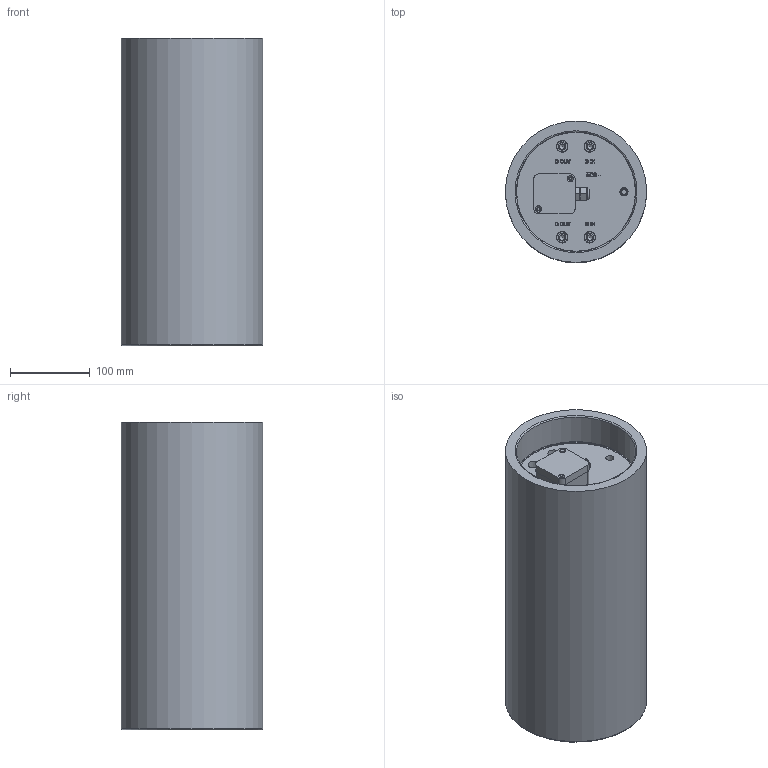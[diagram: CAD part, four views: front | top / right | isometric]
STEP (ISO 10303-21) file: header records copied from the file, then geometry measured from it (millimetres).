
FILE_DESCRIPTION (( 'STEP AP214' ), '1' );
FILE_NAME ('IPMXM250.STEP', '2013-05-10T21:08:15', ( 'Siemens WT' ), ( 'Siemens WT' ), 'SwSTEP 2.0', 'SolidWorks 2012', '' );
FILE_SCHEMA (( 'AUTOMOTIVE_DESIGN' ));
Length unit declared in the file: inch
Products named in the file (7): MX0013D; MX0015E_MX0007-2; MX0014D; MX0008; Bud PN-1330 Cover; IPMXM250; 025 Cord Fitting
Assembly tree (9 placements, depth 2):
  IPMXM250
    MX0015E_MX0007-2
    MX0013D
    MX0014D
    MX0008  x2
    Bud PN-1330 Cover  x2
    025 Cord Fitting  x2
Bounding box: 177.8 x 177.8 x 386.99 mm (x, y, z)
Volume: 3868803.3 mm3; surface area: 586935.4 mm2
Topology: 9 solids, 9 shells, 692 faces, 1743 edges, 1161 vertices
Faces by surface type: plane 350, cylinder 218, bspline 93, cone 26, torus 5
Full cylindrical faces by diameter (mm): 2.286 x2, 3.3 x8, 3.734 x4, 4 x8, 4.3 x4, 4.369 x4, 6.35 x1, 6.528 x2, 6.858 x2, 6.909 x4, 7.87 x4, 7.95 x8, 8.433 x1, 8.89 x2, 9.525 x4, 11.506 x2, 12.217 x8, 12.7 x2, 15.24 x2, 141.605 x2, 149.555 x4, 150.241 x3, 153.873 x2, 177.8 x1
Entity records: 23351 total; most frequent: CARTESIAN_POINT 9702, ORIENTED_EDGE 2662, DIRECTION 2471, EDGE_CURVE 1331, VERTEX_POINT 937, AXIS2_PLACEMENT_3D 836, VECTOR 799, LINE 799
